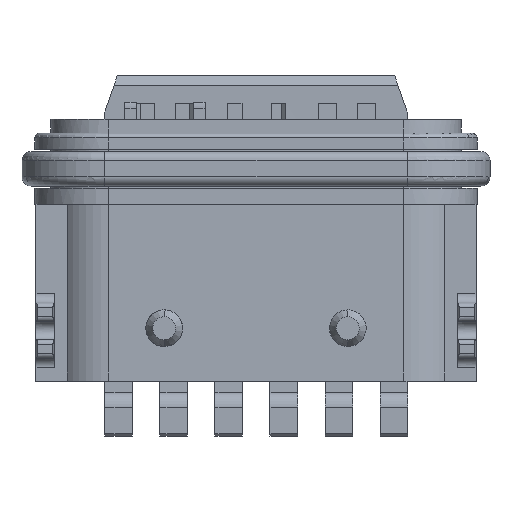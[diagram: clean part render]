
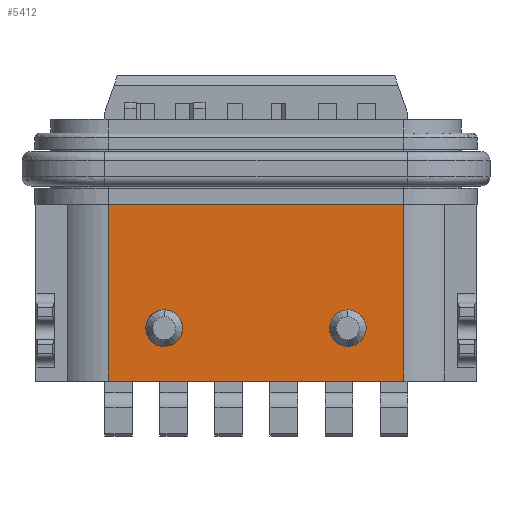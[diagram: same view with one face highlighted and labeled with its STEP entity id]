
A CAD part, front view. The second image highlights one B-rep face of the part: STEP entity #5412.
In plain terms, the highlighted planar face has unit normal (0, -1, 0).
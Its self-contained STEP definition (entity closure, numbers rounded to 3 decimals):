
#101 = CARTESIAN_POINT ( 'NONE',  ( -43.713, -32.397, 41.042 ) ) ;
#555 = CARTESIAN_POINT ( 'NONE',  ( -42.701, -32.397, 38.699 ) ) ;
#1502 = CARTESIAN_POINT ( 'NONE',  ( -38.892, -32.397, 38.237 ) ) ;
#1846 = CARTESIAN_POINT ( 'NONE',  ( -38.849, -32.397, 38.551 ) ) ;
#2338 = CARTESIAN_POINT ( 'NONE',  ( -38.388, -32.397, 37.942 ) ) ;
#2696 = CARTESIAN_POINT ( 'NONE',  ( -42.093, -32.397, 38.447 ) ) ;
#2927 = EDGE_LOOP ( 'NONE', ( #29820, #31781 ) ) ;
#3047 = EDGE_CURVE ( 'NONE', #27374, #10418, #33739, .T. ) ;
#3201 = VERTEX_POINT ( 'NONE', #3589 ) ;
#3391 = CARTESIAN_POINT ( 'NONE',  ( -42.493, -32.397, 37.942 ) ) ;
#3589 = CARTESIAN_POINT ( 'NONE',  ( -43.713, -32.397, 37.192 ) ) ;
#3699 = CARTESIAN_POINT ( 'NONE',  ( -42.284, -32.397, 38.699 ) ) ;
#3786 = CARTESIAN_POINT ( 'NONE',  ( -42.493, -32.397, 37.942 ) ) ;
#4047 = FACE_BOUND ( 'NONE', #19451, .T. ) ;
#4363 = CARTESIAN_POINT ( 'NONE',  ( -42.493, -32.397, 38.742 ) ) ;
#4496 = CARTESIAN_POINT ( 'NONE',  ( -38.136, -32.397, 38.133 ) ) ;
#4823 = AXIS2_PLACEMENT_3D ( 'NONE', #20984, #31864, #26529 ) ;
#5012 = CARTESIAN_POINT ( 'NONE',  ( -38.388, -32.397, 38.742 ) ) ;
#5212 = CARTESIAN_POINT ( 'NONE',  ( -37.273, -32.397, 37.192 ) ) ;
#5412 = ADVANCED_FACE ( 'NONE', ( #20650, #4047, #34537 ), #10221, .F. ) ;
#5423 = B_SPLINE_CURVE_WITH_KNOTS ( 'NONE', 3,
 ( #5212, #16356, #12816, #26810 ),
 .UNSPECIFIED., .F., .F.,
 ( 4, 4 ),
 ( 0., 1. ),
 .UNSPECIFIED. ) ;
#5459 = VERTEX_POINT ( 'NONE', #7760 ) ;
#5643 = ORIENTED_EDGE ( 'NONE', *, *, #22886, .F. ) ;
#6644 = ORIENTED_EDGE ( 'NONE', *, *, #22413, .F. ) ;
#7016 = CARTESIAN_POINT ( 'NONE',  ( -38.493, -32.397, 37.942 ) ) ;
#7760 = CARTESIAN_POINT ( 'NONE',  ( -43.713, -32.397, 41.042 ) ) ;
#7834 = CARTESIAN_POINT ( 'NONE',  ( -42.849, -32.397, 38.551 ) ) ;
#7940 = CARTESIAN_POINT ( 'NONE',  ( -37.273, -32.397, 38.475 ) ) ;
#8615 = CARTESIAN_POINT ( 'NONE',  ( -37.273, -32.397, 41.042 ) ) ;
#8922 = ORIENTED_EDGE ( 'NONE', *, *, #18374, .F. ) ;
#9205 = CARTESIAN_POINT ( 'NONE',  ( -42.493, -32.397, 38.742 ) ) ;
#9380 = CARTESIAN_POINT ( 'NONE',  ( -42.284, -32.397, 37.985 ) ) ;
#9509 = CARTESIAN_POINT ( 'NONE',  ( -43.713, -32.397, 37.192 ) ) ;
#9811 = CARTESIAN_POINT ( 'NONE',  ( -38.093, -32.397, 38.237 ) ) ;
#9845 = CARTESIAN_POINT ( 'NONE',  ( -43.713, -32.397, 39.759 ) ) ;
#10221 = PLANE ( 'NONE',  #4823 ) ;
#10383 = EDGE_CURVE ( 'NONE', #5459, #33634, #30853, .T. ) ;
#10418 = VERTEX_POINT ( 'NONE', #32192 ) ;
#10693 = VERTEX_POINT ( 'NONE', #3786 ) ;
#11723 = EDGE_CURVE ( 'NONE', #17487, #3201, #5423, .T. ) ;
#12642 = CARTESIAN_POINT ( 'NONE',  ( -38.892, -32.397, 38.447 ) ) ;
#12816 = CARTESIAN_POINT ( 'NONE',  ( -41.566, -32.397, 37.192 ) ) ;
#12969 = B_SPLINE_CURVE_WITH_KNOTS ( 'NONE', 3,
 ( #18106, #2338, #28583, #4496, #9811, #34624, #15311, #28940, #5012, #26620 ),
 .UNSPECIFIED., .F., .F.,
 ( 4, 2, 2, 2, 4 ),
 ( 0., 0.25, 0.5, 0.75, 1. ),
 .UNSPECIFIED. ) ;
#13046 = CARTESIAN_POINT ( 'NONE',  ( -37.273, -32.397, 41.042 ) ) ;
#13225 = CARTESIAN_POINT ( 'NONE',  ( -37.273, -32.397, 37.192 ) ) ;
#13500 = CARTESIAN_POINT ( 'NONE',  ( -42.136, -32.397, 38.551 ) ) ;
#13882 = ORIENTED_EDGE ( 'NONE', *, *, #11723, .F. ) ;
#14642 = CARTESIAN_POINT ( 'NONE',  ( -43.713, -32.397, 41.042 ) ) ;
#14966 = CARTESIAN_POINT ( 'NONE',  ( -38.701, -32.397, 38.699 ) ) ;
#15168 = CARTESIAN_POINT ( 'NONE',  ( -43.713, -32.397, 38.475 ) ) ;
#15311 = CARTESIAN_POINT ( 'NONE',  ( -38.136, -32.397, 38.551 ) ) ;
#15487 = CARTESIAN_POINT ( 'NONE',  ( -38.701, -32.397, 37.985 ) ) ;
#16356 = CARTESIAN_POINT ( 'NONE',  ( -39.419, -32.397, 37.192 ) ) ;
#16786 = EDGE_CURVE ( 'NONE', #33634, #17487, #31931, .T. ) ;
#16846 = CARTESIAN_POINT ( 'NONE',  ( -42.892, -32.397, 38.237 ) ) ;
#17487 = VERTEX_POINT ( 'NONE', #22080 ) ;
#18106 = CARTESIAN_POINT ( 'NONE',  ( -38.493, -32.397, 37.942 ) ) ;
#18374 = EDGE_CURVE ( 'NONE', #32830, #10693, #27174, .T. ) ;
#19451 = EDGE_LOOP ( 'NONE', ( #8922, #5643 ) ) ;
#20364 = CARTESIAN_POINT ( 'NONE',  ( -37.273, -32.397, 41.042 ) ) ;
#20419 = CARTESIAN_POINT ( 'NONE',  ( -38.849, -32.397, 38.133 ) ) ;
#20650 = FACE_OUTER_BOUND ( 'NONE', #29044, .T. ) ;
#20922 = CARTESIAN_POINT ( 'NONE',  ( -38.493, -32.397, 38.742 ) ) ;
#20984 = CARTESIAN_POINT ( 'NONE',  ( -40.493, -32.397, 39.117 ) ) ;
#21093 = ORIENTED_EDGE ( 'NONE', *, *, #16786, .F. ) ;
#21327 = CARTESIAN_POINT ( 'NONE',  ( -37.273, -32.397, 39.759 ) ) ;
#21592 = B_SPLINE_CURVE_WITH_KNOTS ( 'NONE', 3,
 ( #26965, #33312, #9380, #27971, #25112, #2696, #13500, #3699, #22087, #9205 ),
 .UNSPECIFIED., .F., .F.,
 ( 4, 2, 2, 2, 4 ),
 ( 0., 0.25, 0.5, 0.75, 1. ),
 .UNSPECIFIED. ) ;
#22080 = CARTESIAN_POINT ( 'NONE',  ( -37.273, -32.397, 37.192 ) ) ;
#22087 = CARTESIAN_POINT ( 'NONE',  ( -42.388, -32.397, 38.742 ) ) ;
#22413 = EDGE_CURVE ( 'NONE', #3201, #5459, #32290, .T. ) ;
#22886 = EDGE_CURVE ( 'NONE', #10693, #32830, #21592, .T. ) ;
#24610 = CARTESIAN_POINT ( 'NONE',  ( -42.493, -32.397, 38.742 ) ) ;
#24789 = CARTESIAN_POINT ( 'NONE',  ( -42.597, -32.397, 38.742 ) ) ;
#25112 = CARTESIAN_POINT ( 'NONE',  ( -42.093, -32.397, 38.237 ) ) ;
#25498 = CARTESIAN_POINT ( 'NONE',  ( -42.849, -32.397, 38.133 ) ) ;
#26043 = CARTESIAN_POINT ( 'NONE',  ( -38.493, -32.397, 38.742 ) ) ;
#26529 = DIRECTION ( 'NONE',  ( 1., 0., 0. ) ) ;
#26620 = CARTESIAN_POINT ( 'NONE',  ( -38.493, -32.397, 38.742 ) ) ;
#26810 = CARTESIAN_POINT ( 'NONE',  ( -43.713, -32.397, 37.192 ) ) ;
#26965 = CARTESIAN_POINT ( 'NONE',  ( -42.493, -32.397, 37.942 ) ) ;
#27174 = B_SPLINE_CURVE_WITH_KNOTS ( 'NONE', 3,
 ( #24610, #24789, #555, #7834, #28355, #16846, #25498, #30323, #27657, #3391 ),
 .UNSPECIFIED., .F., .F.,
 ( 4, 2, 2, 2, 4 ),
 ( 0., 0.25, 0.5, 0.75, 1. ),
 .UNSPECIFIED. ) ;
#27374 = VERTEX_POINT ( 'NONE', #26043 ) ;
#27562 = CARTESIAN_POINT ( 'NONE',  ( -39.419, -32.397, 41.042 ) ) ;
#27657 = CARTESIAN_POINT ( 'NONE',  ( -42.597, -32.397, 37.942 ) ) ;
#27971 = CARTESIAN_POINT ( 'NONE',  ( -42.136, -32.397, 38.133 ) ) ;
#28355 = CARTESIAN_POINT ( 'NONE',  ( -42.892, -32.397, 38.447 ) ) ;
#28583 = CARTESIAN_POINT ( 'NONE',  ( -38.284, -32.397, 37.985 ) ) ;
#28940 = CARTESIAN_POINT ( 'NONE',  ( -38.284, -32.397, 38.699 ) ) ;
#29044 = EDGE_LOOP ( 'NONE', ( #6644, #13882, #21093, #29529 ) ) ;
#29124 = CARTESIAN_POINT ( 'NONE',  ( -38.597, -32.397, 38.742 ) ) ;
#29521 = CARTESIAN_POINT ( 'NONE',  ( -41.566, -32.397, 41.042 ) ) ;
#29529 = ORIENTED_EDGE ( 'NONE', *, *, #10383, .F. ) ;
#29820 = ORIENTED_EDGE ( 'NONE', *, *, #3047, .F. ) ;
#30323 = CARTESIAN_POINT ( 'NONE',  ( -42.701, -32.397, 37.985 ) ) ;
#30853 = B_SPLINE_CURVE_WITH_KNOTS ( 'NONE', 3,
 ( #101, #29521, #27562, #8615 ),
 .UNSPECIFIED., .F., .F.,
 ( 4, 4 ),
 ( 0., 1. ),
 .UNSPECIFIED. ) ;
#31284 = CARTESIAN_POINT ( 'NONE',  ( -38.597, -32.397, 37.942 ) ) ;
#31781 = ORIENTED_EDGE ( 'NONE', *, *, #33320, .F. ) ;
#31864 = DIRECTION ( 'NONE',  ( 0., 1., 0. ) ) ;
#31931 = B_SPLINE_CURVE_WITH_KNOTS ( 'NONE', 3,
 ( #13046, #21327, #7940, #13225 ),
 .UNSPECIFIED., .F., .F.,
 ( 4, 4 ),
 ( 0., 1. ),
 .UNSPECIFIED. ) ;
#32192 = CARTESIAN_POINT ( 'NONE',  ( -38.493, -32.397, 37.942 ) ) ;
#32290 = B_SPLINE_CURVE_WITH_KNOTS ( 'NONE', 3,
 ( #9509, #15168, #9845, #14642 ),
 .UNSPECIFIED., .F., .F.,
 ( 4, 4 ),
 ( 0., 1. ),
 .UNSPECIFIED. ) ;
#32830 = VERTEX_POINT ( 'NONE', #4363 ) ;
#33312 = CARTESIAN_POINT ( 'NONE',  ( -42.388, -32.397, 37.942 ) ) ;
#33320 = EDGE_CURVE ( 'NONE', #10418, #27374, #12969, .T. ) ;
#33634 = VERTEX_POINT ( 'NONE', #20364 ) ;
#33739 = B_SPLINE_CURVE_WITH_KNOTS ( 'NONE', 3,
 ( #20922, #29124, #14966, #1846, #12642, #1502, #20419, #15487, #31284, #7016 ),
 .UNSPECIFIED., .F., .F.,
 ( 4, 2, 2, 2, 4 ),
 ( 0., 0.25, 0.5, 0.75, 1. ),
 .UNSPECIFIED. ) ;
#34537 = FACE_BOUND ( 'NONE', #2927, .T. ) ;
#34624 = CARTESIAN_POINT ( 'NONE',  ( -38.093, -32.397, 38.447 ) ) ;
